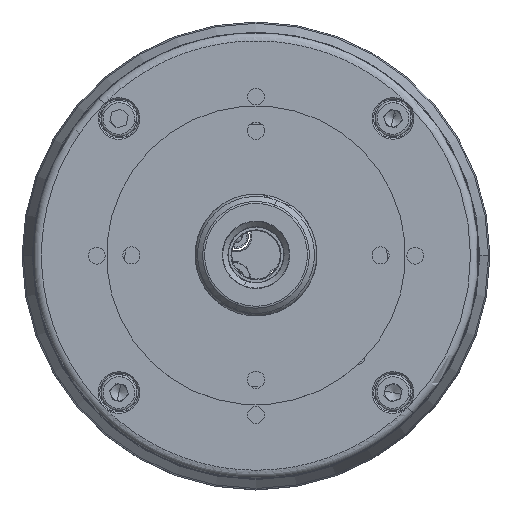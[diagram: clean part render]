
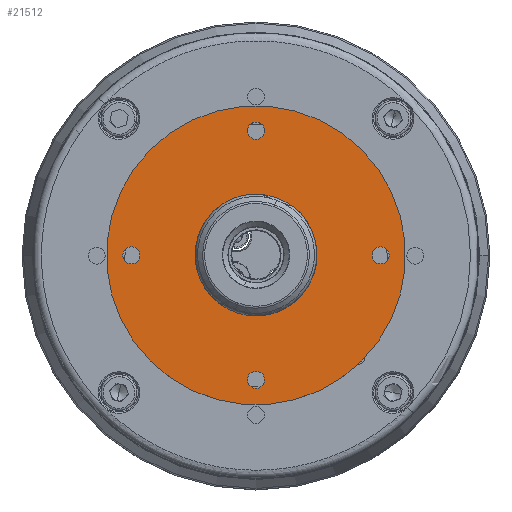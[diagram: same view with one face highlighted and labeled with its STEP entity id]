
A CAD part, top view. The second image highlights one B-rep face of the part: STEP entity #21512.
In plain terms, the highlighted planar face has unit normal (0, 0, 1).
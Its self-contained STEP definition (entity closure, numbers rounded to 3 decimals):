
#80 = ORIENTED_EDGE ( 'NONE', *, *, #10493, .F. ) ;
#105 = FACE_BOUND ( 'NONE', #12846, .T. ) ;
#131 = EDGE_LOOP ( 'NONE', ( #80, #13417 ) ) ;
#367 = CIRCLE ( 'NONE', #23248, 3.1 ) ;
#473 = DIRECTION ( 'NONE',  ( 0.707, -0.707, 0. ) ) ;
#574 = DIRECTION ( 'NONE',  ( 0., 0., 1. ) ) ;
#1092 = DIRECTION ( 'NONE',  ( 0., 0., 1. ) ) ;
#1348 = EDGE_CURVE ( 'NONE', #7384, #3242, #17524, .T. ) ;
#1424 = EDGE_LOOP ( 'NONE', ( #21337, #16647 ) ) ;
#1632 = DIRECTION ( 'NONE',  ( 0., 0., 1. ) ) ;
#1992 = VERTEX_POINT ( 'NONE', #9066 ) ;
#2720 = DIRECTION ( 'NONE',  ( 0.707, -0.707, 0. ) ) ;
#3063 = ORIENTED_EDGE ( 'NONE', *, *, #11293, .F. ) ;
#3076 = CARTESIAN_POINT ( 'NONE',  ( 45., 0., 165.5 ) ) ;
#3197 = CARTESIAN_POINT ( 'NONE',  ( 0., 0., 165.5 ) ) ;
#3230 = DIRECTION ( 'NONE',  ( 0.707, -0.707, 0. ) ) ;
#3242 = VERTEX_POINT ( 'NONE', #21456 ) ;
#3247 = DIRECTION ( 'NONE',  ( 0., 0., 1. ) ) ;
#3283 = CIRCLE ( 'NONE', #6319, 20.5 ) ;
#3327 = VERTEX_POINT ( 'NONE', #20810 ) ;
#3337 = DIRECTION ( 'NONE',  ( 0., 0., -1. ) ) ;
#3348 = CARTESIAN_POINT ( 'NONE',  ( 38.184, -38.184, 165.5 ) ) ;
#3467 = CARTESIAN_POINT ( 'NONE',  ( -45., 0., 165.5 ) ) ;
#3771 = DIRECTION ( 'NONE',  ( 0.707, -0.707, 0. ) ) ;
#3822 = DIRECTION ( 'NONE',  ( 0., 0., 1. ) ) ;
#4168 = CARTESIAN_POINT ( 'NONE',  ( -42.808, -2.192, 165.5 ) ) ;
#4189 = CIRCLE ( 'NONE', #9527, 54. ) ;
#4728 = CARTESIAN_POINT ( 'NONE',  ( 0., 0., 165.5 ) ) ;
#4982 = AXIS2_PLACEMENT_3D ( 'NONE', #13240, #574, #7952 ) ;
#5094 = CARTESIAN_POINT ( 'NONE',  ( -14.496, 14.496, 165.5 ) ) ;
#5262 = EDGE_CURVE ( 'NONE', #18037, #11294, #3283, .T. ) ;
#5500 = CARTESIAN_POINT ( 'NONE',  ( 45., 0., 165.5 ) ) ;
#5570 = AXIS2_PLACEMENT_3D ( 'NONE', #16795, #16678, #473 ) ;
#5579 = EDGE_CURVE ( 'NONE', #13073, #16982, #9755, .T. ) ;
#5641 = CIRCLE ( 'NONE', #8685, 3.1 ) ;
#5778 = ORIENTED_EDGE ( 'NONE', *, *, #5262, .T. ) ;
#6319 = AXIS2_PLACEMENT_3D ( 'NONE', #4728, #19148, #10292 ) ;
#7044 = CARTESIAN_POINT ( 'NONE',  ( 0., 45., 165.5 ) ) ;
#7077 = ORIENTED_EDGE ( 'NONE', *, *, #1348, .F. ) ;
#7369 = FACE_BOUND ( 'NONE', #131, .T. ) ;
#7384 = VERTEX_POINT ( 'NONE', #20194 ) ;
#7952 = DIRECTION ( 'NONE',  ( 0.707, -0.707, 0. ) ) ;
#8542 = AXIS2_PLACEMENT_3D ( 'NONE', #3467, #3247, #10497 ) ;
#8685 = AXIS2_PLACEMENT_3D ( 'NONE', #3076, #19052, #2720 ) ;
#8728 = ORIENTED_EDGE ( 'NONE', *, *, #12600, .F. ) ;
#9029 = ORIENTED_EDGE ( 'NONE', *, *, #14478, .F. ) ;
#9066 = CARTESIAN_POINT ( 'NONE',  ( 42.808, 2.192, 165.5 ) ) ;
#9251 = DIRECTION ( 'NONE',  ( 0.707, -0.707, 0. ) ) ;
#9312 = AXIS2_PLACEMENT_3D ( 'NONE', #21363, #3337, #3230 ) ;
#9417 = PLANE ( 'NONE',  #5570 ) ;
#9527 = AXIS2_PLACEMENT_3D ( 'NONE', #3197, #10559, #14509 ) ;
#9755 = CIRCLE ( 'NONE', #12447, 3.1 ) ;
#10059 = VERTEX_POINT ( 'NONE', #17278 ) ;
#10292 = DIRECTION ( 'NONE',  ( 0.707, -0.707, 0. ) ) ;
#10444 = AXIS2_PLACEMENT_3D ( 'NONE', #7044, #23314, #10618 ) ;
#10448 = VERTEX_POINT ( 'NONE', #3348 ) ;
#10493 = EDGE_CURVE ( 'NONE', #16982, #13073, #18454, .T. ) ;
#10497 = DIRECTION ( 'NONE',  ( 0.707, -0.707, 0. ) ) ;
#10527 = EDGE_LOOP ( 'NONE', ( #21259, #18904 ) ) ;
#10559 = DIRECTION ( 'NONE',  ( 0., 0., 1. ) ) ;
#10601 = AXIS2_PLACEMENT_3D ( 'NONE', #22138, #22020, #9251 ) ;
#10618 = DIRECTION ( 'NONE',  ( 0.707, -0.707, 0. ) ) ;
#10625 = VERTEX_POINT ( 'NONE', #18628 ) ;
#10767 = EDGE_LOOP ( 'NONE', ( #20740, #5778 ) ) ;
#11293 = EDGE_CURVE ( 'NONE', #3242, #7384, #15858, .T. ) ;
#11294 = VERTEX_POINT ( 'NONE', #20649 ) ;
#12447 = AXIS2_PLACEMENT_3D ( 'NONE', #20152, #3822, #18377 ) ;
#12600 = EDGE_CURVE ( 'NONE', #10625, #3327, #17695, .T. ) ;
#12846 = EDGE_LOOP ( 'NONE', ( #3063, #7077 ) ) ;
#13019 = FACE_OUTER_BOUND ( 'NONE', #10527, .T. ) ;
#13073 = VERTEX_POINT ( 'NONE', #22638 ) ;
#13240 = CARTESIAN_POINT ( 'NONE',  ( 0., -45., 165.5 ) ) ;
#13417 = ORIENTED_EDGE ( 'NONE', *, *, #5579, .F. ) ;
#13526 = CIRCLE ( 'NONE', #9312, 20.5 ) ;
#13742 = CARTESIAN_POINT ( 'NONE',  ( 0., -45., 165.5 ) ) ;
#14099 = VERTEX_POINT ( 'NONE', #20701 ) ;
#14342 = EDGE_CURVE ( 'NONE', #14099, #1992, #5641, .T. ) ;
#14478 = EDGE_CURVE ( 'NONE', #3327, #10625, #367, .T. ) ;
#14509 = DIRECTION ( 'NONE',  ( 0.707, -0.707, 0. ) ) ;
#14637 = CARTESIAN_POINT ( 'NONE',  ( 0., 45., 165.5 ) ) ;
#14669 = EDGE_LOOP ( 'NONE', ( #9029, #8728 ) ) ;
#15427 = EDGE_CURVE ( 'NONE', #10448, #10059, #4189, .T. ) ;
#15429 = DIRECTION ( 'NONE',  ( 0.707, -0.707, 0. ) ) ;
#15649 = DIRECTION ( 'NONE',  ( 0., 0., 1. ) ) ;
#15858 = CIRCLE ( 'NONE', #22335, 3.1 ) ;
#16327 = CIRCLE ( 'NONE', #10601, 54. ) ;
#16647 = ORIENTED_EDGE ( 'NONE', *, *, #16801, .F. ) ;
#16678 = DIRECTION ( 'NONE',  ( 0., 0., 1. ) ) ;
#16795 = CARTESIAN_POINT ( 'NONE',  ( 14.142, 14.142, 165.5 ) ) ;
#16801 = EDGE_CURVE ( 'NONE', #1992, #14099, #21055, .T. ) ;
#16982 = VERTEX_POINT ( 'NONE', #4168 ) ;
#17278 = CARTESIAN_POINT ( 'NONE',  ( -38.184, 38.184, 165.5 ) ) ;
#17524 = CIRCLE ( 'NONE', #4982, 3.1 ) ;
#17535 = EDGE_CURVE ( 'NONE', #10059, #10448, #16327, .T. ) ;
#17695 = CIRCLE ( 'NONE', #10444, 3.1 ) ;
#18037 = VERTEX_POINT ( 'NONE', #5094 ) ;
#18377 = DIRECTION ( 'NONE',  ( 0.707, -0.707, 0. ) ) ;
#18454 = CIRCLE ( 'NONE', #8542, 3.1 ) ;
#18628 = CARTESIAN_POINT ( 'NONE',  ( -2.192, 47.192, 165.5 ) ) ;
#18719 = FACE_BOUND ( 'NONE', #14669, .T. ) ;
#18758 = AXIS2_PLACEMENT_3D ( 'NONE', #5500, #1092, #21128 ) ;
#18904 = ORIENTED_EDGE ( 'NONE', *, *, #17535, .T. ) ;
#19052 = DIRECTION ( 'NONE',  ( 0., 0., 1. ) ) ;
#19148 = DIRECTION ( 'NONE',  ( 0., 0., -1. ) ) ;
#20152 = CARTESIAN_POINT ( 'NONE',  ( -45., 0., 165.5 ) ) ;
#20194 = CARTESIAN_POINT ( 'NONE',  ( -2.192, -42.808, 165.5 ) ) ;
#20391 = FACE_BOUND ( 'NONE', #1424, .T. ) ;
#20616 = EDGE_CURVE ( 'NONE', #11294, #18037, #13526, .T. ) ;
#20649 = CARTESIAN_POINT ( 'NONE',  ( 14.496, -14.496, 165.5 ) ) ;
#20701 = CARTESIAN_POINT ( 'NONE',  ( 47.192, -2.192, 165.5 ) ) ;
#20740 = ORIENTED_EDGE ( 'NONE', *, *, #20616, .T. ) ;
#20810 = CARTESIAN_POINT ( 'NONE',  ( 2.192, 42.808, 165.5 ) ) ;
#21055 = CIRCLE ( 'NONE', #18758, 3.1 ) ;
#21128 = DIRECTION ( 'NONE',  ( 0.707, -0.707, 0. ) ) ;
#21259 = ORIENTED_EDGE ( 'NONE', *, *, #15427, .T. ) ;
#21337 = ORIENTED_EDGE ( 'NONE', *, *, #14342, .F. ) ;
#21363 = CARTESIAN_POINT ( 'NONE',  ( 0., 0., 165.5 ) ) ;
#21456 = CARTESIAN_POINT ( 'NONE',  ( 2.192, -47.192, 165.5 ) ) ;
#21512 = ADVANCED_FACE ( 'NONE', ( #23405, #18719, #7369, #105, #20391, #13019 ), #9417, .T. ) ;
#22020 = DIRECTION ( 'NONE',  ( 0., 0., 1. ) ) ;
#22138 = CARTESIAN_POINT ( 'NONE',  ( 0., 0., 165.5 ) ) ;
#22335 = AXIS2_PLACEMENT_3D ( 'NONE', #13742, #15649, #15429 ) ;
#22638 = CARTESIAN_POINT ( 'NONE',  ( -47.192, 2.192, 165.5 ) ) ;
#23248 = AXIS2_PLACEMENT_3D ( 'NONE', #14637, #1632, #3771 ) ;
#23314 = DIRECTION ( 'NONE',  ( 0., 0., 1. ) ) ;
#23405 = FACE_BOUND ( 'NONE', #10767, .T. ) ;
